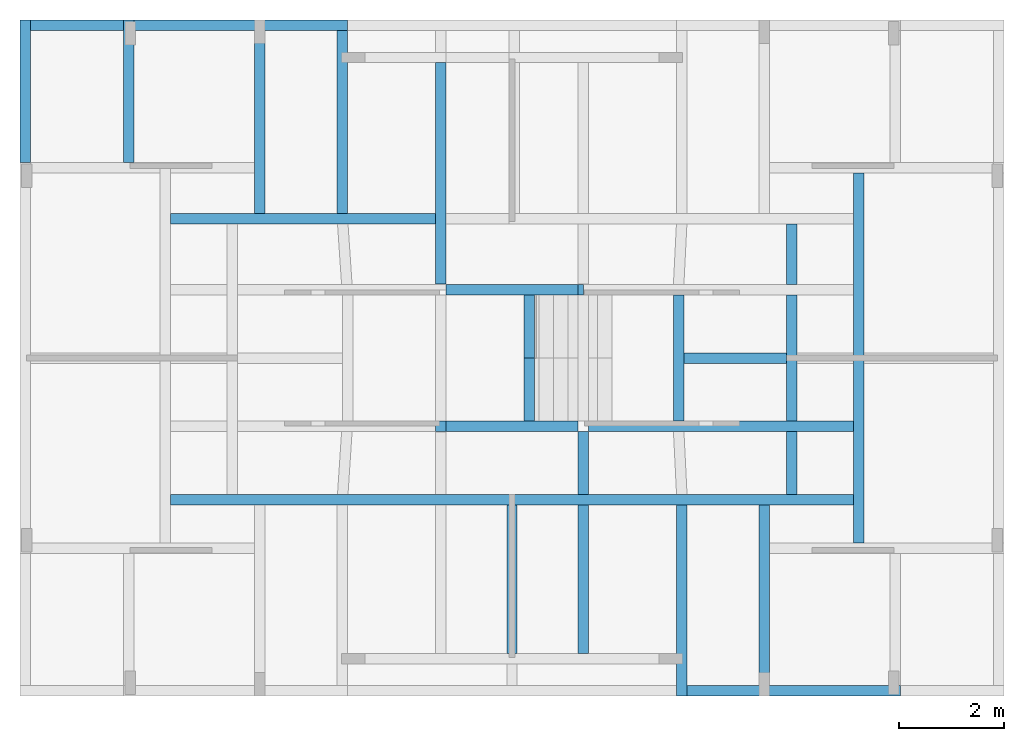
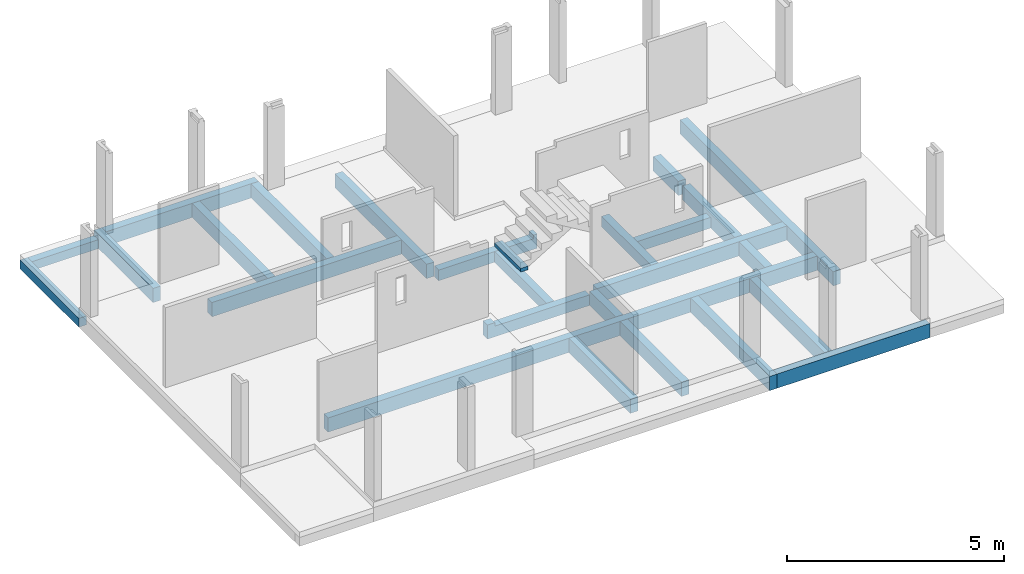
# One storey, part 2 of 7: 23 beams.
"""IFC4 building model written with IfcOpenShell, lengths in metres."""

from ifc_helpers import new_model, entity, si_unit, converted_unit, derived_unit, direction, frame, origin, place, context, subcontext, project, spatial, indexed_curve, outline, extrude, source, transform, mapped, material, type_object, type_shapes, element, save


model = new_model("IFC4")

# Units and contexts
model_context = context("Model", 3, precision=1e-05, world=origin(), true_north=direction((6.123031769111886e-17, 1.0)))
body_context = subcontext(model_context, "Body", "Model", "MODEL_VIEW")
ifc_project = project(units=[si_unit("LENGTHUNIT", "METRE"), si_unit("AREAUNIT", "SQUARE_METRE"), si_unit("VOLUMEUNIT", "CUBIC_METRE"), converted_unit("PLANEANGLEUNIT", "DEGREE", entity("IfcRatioMeasure", 0.017453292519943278), si_unit("PLANEANGLEUNIT", "RADIAN"), dimensions=[0, 0, 0, 0, 0, 0, 0]), si_unit("MASSUNIT", "GRAM", prefix="KILO"), derived_unit("MASSDENSITYUNIT", [(si_unit("MASSUNIT", "GRAM", prefix="KILO"), 1), (si_unit("LENGTHUNIT", "METRE"), -3)]), derived_unit("IONCONCENTRATIONUNIT", [(si_unit("MASSUNIT", "GRAM", prefix="KILO"), 1), (si_unit("LENGTHUNIT", "METRE"), -3)]), derived_unit("MOMENTOFINERTIAUNIT", [(si_unit("LENGTHUNIT", "METRE"), 4)]), si_unit("TIMEUNIT", "SECOND"), si_unit("FREQUENCYUNIT", "HERTZ"), si_unit("THERMODYNAMICTEMPERATUREUNIT", "DEGREE_CELSIUS"), derived_unit("THERMALTRANSMITTANCEUNIT", [(si_unit("MASSUNIT", "GRAM", prefix="KILO"), 1), (si_unit("THERMODYNAMICTEMPERATUREUNIT", "KELVIN"), -1), (si_unit("TIMEUNIT", "SECOND"), -3)]), derived_unit("THERMALCONDUCTANCEUNIT", [(si_unit("MASSUNIT", "GRAM", prefix="KILO"), 1), (si_unit("THERMODYNAMICTEMPERATUREUNIT", "KELVIN"), -1), (si_unit("TIMEUNIT", "SECOND"), -3), (si_unit("LENGTHUNIT", "METRE"), 1)]), derived_unit("VOLUMETRICFLOWRATEUNIT", [(si_unit("LENGTHUNIT", "METRE"), 3), (si_unit("TIMEUNIT", "SECOND"), -1)]), derived_unit("MASSFLOWRATEUNIT", [(si_unit("MASSUNIT", "GRAM", prefix="KILO"), 1), (si_unit("TIMEUNIT", "SECOND"), -1)]), derived_unit("ROTATIONALFREQUENCYUNIT", [(si_unit("TIMEUNIT", "SECOND"), -1)]), si_unit("ELECTRICCURRENTUNIT", "AMPERE"), si_unit("ELECTRICVOLTAGEUNIT", "VOLT"), si_unit("POWERUNIT", "WATT"), si_unit("FORCEUNIT", "NEWTON", prefix="KILO"), si_unit("ILLUMINANCEUNIT", "LUX"), si_unit("LUMINOUSFLUXUNIT", "LUMEN"), si_unit("LUMINOUSINTENSITYUNIT", "CANDELA"), derived_unit("USERDEFINED", [(si_unit("MASSUNIT", "GRAM", prefix="KILO"), -1), (si_unit("LENGTHUNIT", "METRE"), -2), (si_unit("TIMEUNIT", "SECOND"), 3), (si_unit("LUMINOUSFLUXUNIT", "LUMEN"), 1)]), derived_unit("USERDEFINED", [(si_unit("MASSUNIT", "GRAM", prefix="KILO"), 1), (si_unit("TIMEUNIT", "SECOND"), -3), (si_unit("LENGTHUNIT", "METRE"), 3), (si_unit("ELECTRICCURRENTUNIT", "AMPERE"), -2)]), derived_unit("SOUNDPOWERUNIT", [(si_unit("MASSUNIT", "GRAM", prefix="KILO"), 1), (si_unit("TIMEUNIT", "SECOND"), -3), (si_unit("LENGTHUNIT", "METRE"), 2)]), derived_unit("SOUNDPRESSUREUNIT", [(si_unit("MASSUNIT", "GRAM", prefix="KILO"), 1), (si_unit("LENGTHUNIT", "METRE"), -1), (si_unit("TIMEUNIT", "SECOND"), -2)]), derived_unit("LINEARVELOCITYUNIT", [(si_unit("LENGTHUNIT", "METRE"), 1), (si_unit("TIMEUNIT", "SECOND"), -1)]), si_unit("PRESSUREUNIT", "PASCAL"), derived_unit("USERDEFINED", [(si_unit("MASSUNIT", "GRAM", prefix="KILO"), 1), (si_unit("LENGTHUNIT", "METRE"), -2), (si_unit("TIMEUNIT", "SECOND"), -2)]), derived_unit("LINEARFORCEUNIT", [(si_unit("MASSUNIT", "GRAM", prefix="KILO"), 1), (si_unit("TIMEUNIT", "SECOND"), -2)]), derived_unit("PLANARFORCEUNIT", [(si_unit("MASSUNIT", "GRAM", prefix="KILO"), 1), (si_unit("LENGTHUNIT", "METRE"), -1), (si_unit("TIMEUNIT", "SECOND"), -2)]), derived_unit("SPECIFICHEATCAPACITYUNIT", [(si_unit("THERMODYNAMICTEMPERATUREUNIT", "KELVIN"), -1), (si_unit("LENGTHUNIT", "METRE"), 2), (si_unit("TIMEUNIT", "SECOND"), -2)]), derived_unit("HEATINGVALUEUNIT", [(si_unit("LENGTHUNIT", "METRE"), 2), (si_unit("TIMEUNIT", "SECOND"), -2)]), derived_unit("VAPORPERMEABILITYUNIT", [(si_unit("LENGTHUNIT", "METRE"), -1), (si_unit("TIMEUNIT", "SECOND"), 1)]), derived_unit("DYNAMICVISCOSITYUNIT", [(si_unit("MASSUNIT", "GRAM", prefix="KILO"), 1), (si_unit("TIMEUNIT", "SECOND"), -1), (si_unit("LENGTHUNIT", "METRE"), -1)]), derived_unit("THERMALEXPANSIONCOEFFICIENTUNIT", [(si_unit("THERMODYNAMICTEMPERATUREUNIT", "KELVIN"), -1)]), derived_unit("MODULUSOFELASTICITYUNIT", [(si_unit("MASSUNIT", "GRAM", prefix="KILO"), 1), (si_unit("LENGTHUNIT", "METRE"), -1), (si_unit("TIMEUNIT", "SECOND"), -2)]), derived_unit("ISOTHERMALMOISTURECAPACITYUNIT", [(si_unit("LENGTHUNIT", "METRE"), 3), (si_unit("MASSUNIT", "GRAM", prefix="KILO"), -1)]), derived_unit("MOISTUREDIFFUSIVITYUNIT", [(si_unit("TIMEUNIT", "SECOND"), -1), (si_unit("LENGTHUNIT", "METRE"), 2)])], contexts=[model_context])

# Site, building, storey
site_placement = place(None, origin())
site = spatial("IfcSite", under=ifc_project, at=site_placement, Name="Default", CompositionType="ELEMENT")
building_placement = place(site_placement, origin())
building = spatial("IfcBuilding", under=site, at=building_placement, Name="Las nubes", CompositionType="ELEMENT")
storey_placement = place(building_placement, origin())
storey = spatial("IfcBuildingStorey", under=building, at=storey_placement, Name="CIMENTACIÓN", CompositionType="ELEMENT", Elevation=-3.522347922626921e-13)

# Beams
ifc_material_1 = material(Name="Concrete, Cast In Situ", Category="Materials")
beam_type_1 = type_object("IfcBeamType", Name="M_Concrete-Rectangular Beam:(0.20x0.55)", PredefinedType="BEAM", material=ifc_material_1)
shared_shape_1 = source(origin(), body_context, "Body", "SweptSolid", [
    extrude(outline(indexed_curve([(-0.19999999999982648, -0.09999999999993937), (0.19999999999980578, -0.10000000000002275), (0.19999999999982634, 0.0999999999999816), (-0.19999999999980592, 0.10000000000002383), (-0.19999999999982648, -0.09999999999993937)], self_intersect=False)), frame((2.810001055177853, -9.12499999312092, -0.3500000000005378), z_axis=(1.0, 0.0, 0.0), x_axis=(0.0, 0.0, -1.0)), (0.0, 0.0, 1.0), 13.024997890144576),
])
type_shapes(beam_type_1, [shared_shape_1])
beam_1_placement = place(storey_placement, origin())
element("IfcBeam", 1, at=beam_1_placement, inside=storey, type_object=beam_type_1, material=ifc_material_1, Name="M_Concrete-Rectangular Beam:(0.20x0.55)", ObjectType="M_Concrete-Rectangular Beam:(0.20x0.55)", PredefinedType="BEAM", context=body_context, shape_type="MappedRepresentation", body=[
    mapped(shared_shape_1, transform((0.0, 0.0, 0.0), scale=1.0)),
])
beam_type_2 = type_object("IfcBeamType", Name="M_Concrete-Rectangular Beam:(0.20x0.55)", PredefinedType="BEAM", material=ifc_material_1)
shared_shape_2 = source(origin(), body_context, "Body", "SweptSolid", [
    extrude(outline(indexed_curve([(-0.19999999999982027, -0.09999999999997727), (0.199999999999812, -0.10000000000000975), (0.19999999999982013, 0.09999999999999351), (-0.19999999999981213, 0.10000000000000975), (-0.19999999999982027, -0.09999999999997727)], self_intersect=False)), frame((2.8100010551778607, -3.767499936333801, -0.3500000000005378), z_axis=(1.0, 0.0, 0.0), x_axis=(0.0, 0.0, -1.0)), (0.0, 0.0, 1.0), 5.05249894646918),
])
type_shapes(beam_type_2, [shared_shape_2])
beam_2_placement = place(storey_placement, origin())
element("IfcBeam", 2, at=beam_2_placement, inside=storey, type_object=beam_type_2, material=ifc_material_1, Name="M_Concrete-Rectangular Beam:(0.20x0.55)", ObjectType="M_Concrete-Rectangular Beam:(0.20x0.55)", PredefinedType="BEAM", context=body_context, shape_type="MappedRepresentation", body=[
    mapped(shared_shape_2, transform((0.0, 0.0, 0.0), scale=1.0)),
])
beam_type_3 = type_object("IfcBeamType", Name="M_Concrete-Rectangular Beam:(0.20x0.55)", PredefinedType="BEAM", material=ifc_material_1)
shared_shape_3 = source(origin(), body_context, "Body", "SweptSolid", [
    extrude(outline(indexed_curve([(-0.09999999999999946, -0.19999999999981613), (0.10000000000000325, -0.19999999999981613), (0.10000000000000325, 0.19999999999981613), (-0.1, 0.19999999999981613), (-0.09999999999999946, -0.19999999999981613)], self_intersect=False)), frame((4.509999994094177, -0.180000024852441, -0.3500000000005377), z_axis=(0.0, -1.0, 0.0), x_axis=(-1.0, 0.0, 0.0)), (0.0, 0.0, 1.0), 3.4874999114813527),
])
type_shapes(beam_type_3, [shared_shape_3])
beam_3_placement = place(storey_placement, origin())
element("IfcBeam", 3, at=beam_3_placement, inside=storey, type_object=beam_type_3, material=ifc_material_1, Name="M_Concrete-Rectangular Beam:(0.20x0.55)", ObjectType="M_Concrete-Rectangular Beam:(0.20x0.55)", PredefinedType="BEAM", context=body_context, shape_type="MappedRepresentation", body=[
    mapped(shared_shape_3, transform((0.0, 0.0, 0.0), scale=1.0)),
])
beam_type_4 = type_object("IfcBeamType", Name="M_Concrete-Rectangular Beam:(0.20x0.55)", PredefinedType="BEAM", material=ifc_material_1)
shared_shape_4 = source(origin(), body_context, "Body", "SweptSolid", [
    extrude(outline(indexed_curve([(-0.10000000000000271, -0.19999999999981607), (0.10000000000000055, -0.19999999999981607), (0.10000000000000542, 0.19999999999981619), (-0.10000000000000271, 0.19999999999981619), (-0.10000000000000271, -0.19999999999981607)], self_intersect=False)), frame((2.017499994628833, -2.695000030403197, -0.3500000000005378), z_axis=(0.0, 1.0, 0.0), x_axis=(-1.0, 0.0, 0.0)), (0.0, 0.0, 1.0), 2.7150000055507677),
])
type_shapes(beam_type_4, [shared_shape_4])
beam_4_placement = place(storey_placement, origin())
element("IfcBeam", 4, at=beam_4_placement, inside=storey, type_object=beam_type_4, material=ifc_material_1, Name="M_Concrete-Rectangular Beam:(0.20x0.55)", ObjectType="M_Concrete-Rectangular Beam:(0.20x0.55)", PredefinedType="BEAM", context=body_context, shape_type="MappedRepresentation", body=[
    mapped(shared_shape_4, transform((0.0, 0.0, 0.0), scale=1.0)),
])
beam_type_5 = type_object("IfcBeamType", Name="M_Concrete-Rectangular Beam:(0.20x0.55)", PredefinedType="BEAM", material=ifc_material_1)
shared_shape_5 = source(origin(), body_context, "Body", "SweptSolid", [
    extrude(outline(indexed_curve([(-0.1999999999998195, -0.09999999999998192), (0.19999999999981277, -0.10000000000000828), (0.19999999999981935, 0.0999999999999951), (-0.1999999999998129, 0.1000000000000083), (-0.1999999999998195, -0.09999999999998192)], self_intersect=False)), frame((2.1174999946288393, -0.08000002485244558, -0.3500000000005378), z_axis=(1.0, 0.0, 0.0), x_axis=(0.0, 0.0, -1.0)), (0.0, 0.0, 1.0), 4.064999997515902),
])
type_shapes(beam_type_5, [shared_shape_5])
beam_5_placement = place(storey_placement, origin())
element("IfcBeam", 5, at=beam_5_placement, inside=storey, type_object=beam_type_5, material=ifc_material_1, Name="M_Concrete-Rectangular Beam:(0.20x0.55)", ObjectType="M_Concrete-Rectangular Beam:(0.20x0.55)", PredefinedType="BEAM", context=body_context, shape_type="MappedRepresentation", body=[
    mapped(shared_shape_5, transform((0.0, 0.0, 0.0), scale=1.0)),
])
beam_type_6 = type_object("IfcBeamType", Name="M_Concrete-Rectangular Beam:(0.20x0.55)", PredefinedType="BEAM", material=ifc_material_1)
shared_shape_6 = source(origin(), body_context, "Body", "SweptSolid", [
    extrude(outline(indexed_curve([(-0.10000000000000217, -0.19999999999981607), (0.10000000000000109, -0.19999999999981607), (0.10000000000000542, 0.19999999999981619), (-0.10000000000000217, 0.19999999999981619), (-0.10000000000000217, -0.19999999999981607)], self_intersect=False)), frame((9.322500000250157, -12.055000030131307, -0.3500000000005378), z_axis=(0.0, 1.0, 0.0), x_axis=(-1.0, 0.0, 0.0)), (0.0, 0.0, 1.0), 2.8300000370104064),
])
type_shapes(beam_type_6, [shared_shape_6])
beam_6_placement = place(storey_placement, origin())
element("IfcBeam", 6, at=beam_6_placement, inside=storey, type_object=beam_type_6, material=ifc_material_1, Name="M_Concrete-Rectangular Beam:(0.20x0.55)", ObjectType="M_Concrete-Rectangular Beam:(0.20x0.55)", PredefinedType="BEAM", context=body_context, shape_type="MappedRepresentation", body=[
    mapped(shared_shape_6, transform((0.0, 0.0, 0.0), scale=1.0)),
])
beam_type_7 = type_object("IfcBeamType", Name="M_Concrete-Rectangular Beam:(0.20x0.55)", PredefinedType="BEAM", material=ifc_material_1)
shared_shape_7 = source(origin(), body_context, "Body", "SweptSolid", [
    extrude(outline(indexed_curve([(-0.10000000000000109, -0.19999999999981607), (0.10000000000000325, -0.19999999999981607), (0.10000000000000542, 0.19999999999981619), (-0.10000000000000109, 0.19999999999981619), (-0.10000000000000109, -0.19999999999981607)], self_intersect=False)), frame((10.682499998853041, -9.024999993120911, -0.3500000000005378), z_axis=(0.0, 1.0, 0.0), x_axis=(-1.0, 0.0, 0.0)), (0.0, 0.0, 1.0), 1.1999999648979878),
    extrude(outline(indexed_curve([(-0.10000000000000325, -0.19999999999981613), (0.10000000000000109, -0.19999999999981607), (0.10000000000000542, 0.19999999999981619), (-0.10000000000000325, 0.19999999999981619), (-0.10000000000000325, -0.19999999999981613)], self_intersect=False)), frame((10.682499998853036, -12.05500003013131, -0.3500000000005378), z_axis=(0.0, 1.0, 0.0), x_axis=(-1.0, 0.0, 0.0)), (0.0, 0.0, 1.0), 2.830000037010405),
])
type_shapes(beam_type_7, [shared_shape_7])
beam_7_placement = place(storey_placement, origin())
element("IfcBeam", 7, at=beam_7_placement, inside=storey, type_object=beam_type_7, material=ifc_material_1, Name="M_Concrete-Rectangular Beam:(0.20x0.55)", ObjectType="M_Concrete-Rectangular Beam:(0.20x0.55)", PredefinedType="BEAM", context=body_context, shape_type="MappedRepresentation", body=[
    mapped(shared_shape_7, transform((0.0, 0.0, 0.0), scale=1.0)),
])
beam_type_8 = type_object("IfcBeamType", Name="M_Concrete-Rectangular Beam:(0.20x0.45)", PredefinedType="BEAM", material=ifc_material_1)
shared_shape_8 = source(origin(), body_context, "Body", "SweptSolid", [
    extrude(outline(indexed_curve([(-0.10000000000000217, -0.15000000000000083), (0.10000000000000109, -0.15000000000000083), (0.10000000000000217, 0.15000000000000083), (-0.10000000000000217, 0.15000000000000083), (-0.10000000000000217, -0.15000000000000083)], self_intersect=False)), frame((9.652500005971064, -7.625000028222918, -0.4000000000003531), z_axis=(0.0, 1.0, 0.0), x_axis=(-1.0, 0.0, 0.0)), (0.0, 0.0, 1.0), 2.4000000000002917),
])
type_shapes(beam_type_8, [shared_shape_8])
beam_8_placement = place(storey_placement, origin())
element("IfcBeam", 8, at=beam_8_placement, inside=storey, type_object=beam_type_8, material=ifc_material_1, Name="M_Concrete-Rectangular Beam:(0.20x0.45)", ObjectType="M_Concrete-Rectangular Beam:(0.20x0.45)", PredefinedType="BEAM", context=body_context, shape_type="MappedRepresentation", body=[
    mapped(shared_shape_8, transform((0.0, 0.0, 0.0), scale=1.0)),
])
beam_type_9 = type_object("IfcBeamType", Name="M_Concrete-Rectangular Beam:(0.20x0.55)", PredefinedType="BEAM", material=ifc_material_1)
shared_shape_9 = source(origin(), body_context, "Body", "SweptSolid", [
    extrude(outline(indexed_curve([(-0.10000000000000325, -0.19999999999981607), (0.10000000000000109, -0.19999999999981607), (0.10000000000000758, 0.19999999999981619), (-0.10000000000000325, 0.19999999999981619), (-0.10000000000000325, -0.19999999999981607)], self_intersect=False)), frame((12.562500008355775, -12.870000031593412, -0.3500000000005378), z_axis=(0.0, 1.0, 0.0), x_axis=(-1.0, 0.0, 0.0)), (0.0, 0.0, 1.0), 3.645000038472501),
])
type_shapes(beam_type_9, [shared_shape_9])
beam_9_placement = place(storey_placement, origin())
element("IfcBeam", 9, at=beam_9_placement, inside=storey, type_object=beam_type_9, material=ifc_material_1, Name="M_Concrete-Rectangular Beam:(0.20x0.55)", ObjectType="M_Concrete-Rectangular Beam:(0.20x0.55)", PredefinedType="BEAM", context=body_context, shape_type="MappedRepresentation", body=[
    mapped(shared_shape_9, transform((0.0, 0.0, 0.0), scale=1.0)),
])
beam_type_10 = type_object("IfcBeamType", Name="M_Concrete-Rectangular Beam:(0.20x0.55)", PredefinedType="BEAM", material=ifc_material_1)
shared_shape_10 = source(origin(), body_context, "Body", "SweptSolid", [
    extrude(outline(indexed_curve([(-0.10000000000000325, -0.19999999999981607), (0.10000000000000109, -0.19999999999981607), (0.10000000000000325, 0.19999999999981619), (-0.10000000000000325, 0.19999999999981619), (-0.10000000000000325, -0.19999999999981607)], self_intersect=False)), frame((14.657500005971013, -9.024999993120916, -0.3500000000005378), z_axis=(0.0, 1.0, 0.0), x_axis=(-1.0, 0.0, 0.0)), (0.0, 0.0, 1.0), 1.1999999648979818),
    extrude(outline(indexed_curve([(-0.10000000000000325, -0.19999999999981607), (0.10000000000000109, -0.19999999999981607), (0.10000000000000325, 0.19999999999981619), (-0.10000000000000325, 0.19999999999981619), (-0.10000000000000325, -0.19999999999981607)], self_intersect=False)), frame((14.65750000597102, -5.0250000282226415, -0.3500000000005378), z_axis=(0.0, 1.0, 0.0), x_axis=(-1.0, 0.0, 0.0)), (0.0, 0.0, 1.0), 1.1575000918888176),
    extrude(outline(indexed_curve([(-0.10000000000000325, -0.19999999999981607), (0.10000000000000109, -0.19999999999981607), (0.10000000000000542, 0.19999999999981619), (-0.10000000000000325, 0.19999999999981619), (-0.10000000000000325, -0.19999999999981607)], self_intersect=False)), frame((14.657500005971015, -7.625000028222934, -0.3500000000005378), z_axis=(0.0, 1.0, 0.0), x_axis=(-1.0, 0.0, 0.0)), (0.0, 0.0, 1.0), 2.4000000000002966),
])
type_shapes(beam_type_10, [shared_shape_10])
beam_10_placement = place(storey_placement, origin())
element("IfcBeam", 10, at=beam_10_placement, inside=storey, type_object=beam_type_10, material=ifc_material_1, Name="M_Concrete-Rectangular Beam:(0.20x0.55)", ObjectType="M_Concrete-Rectangular Beam:(0.20x0.55)", PredefinedType="BEAM", context=body_context, shape_type="MappedRepresentation", body=[
    mapped(shared_shape_10, transform((0.0, 0.0, 0.0), scale=1.0)),
])
beam_type_11 = type_object("IfcBeamType", Name="M_Concrete-Rectangular Beam:(0.20x0.55)", PredefinedType="BEAM", material=ifc_material_1)
shared_shape_11 = source(origin(), body_context, "Body", "SweptSolid", [
    extrude(outline(indexed_curve([(-0.19999999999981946, -0.0999999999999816), (0.19999999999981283, -0.10000000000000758), (0.19999999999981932, 0.09999999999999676), (-0.19999999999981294, 0.10000000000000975), (-0.19999999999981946, -0.0999999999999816)], self_intersect=False)), frame((12.662500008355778, -12.770000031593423, -0.3500000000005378), z_axis=(1.0, 0.0, 0.0), x_axis=(0.0, 0.0, -1.0)), (0.0, 0.0, 1.0), 4.064999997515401),
])
type_shapes(beam_type_11, [shared_shape_11])
beam_11_placement = place(storey_placement, origin())
element("IfcBeam", 11, at=beam_11_placement, inside=storey, type_object=beam_type_11, material=ifc_material_1, Name="M_Concrete-Rectangular Beam:(0.20x0.55)", ObjectType="M_Concrete-Rectangular Beam:(0.20x0.55)", PredefinedType="BEAM", context=body_context, shape_type="MappedRepresentation", body=[
    mapped(shared_shape_11, transform((0.0, 0.0, 0.0), scale=1.0)),
])
beam_type_12 = type_object("IfcBeamType", Name="M_Concrete-Rectangular Beam:(0.20x0.55)", PredefinedType="BEAM", material=ifc_material_1)
shared_shape_12 = source(origin(), body_context, "Body", "SweptSolid", [
    extrude(outline(indexed_curve([(-0.10000000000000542, -0.19999999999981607), (0.09999999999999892, -0.19999999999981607), (0.10000000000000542, 0.19999999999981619), (-0.10000000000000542, 0.19999999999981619), (-0.10000000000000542, -0.19999999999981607)], self_intersect=False)), frame((14.13500000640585, -12.670000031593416, -0.3500000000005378), z_axis=(0.0, 1.0, 0.0), x_axis=(-1.0, 0.0, 0.0)), (0.0, 0.0, 1.0), 3.4450000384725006),
])
type_shapes(beam_type_12, [shared_shape_12])
beam_12_placement = place(storey_placement, origin())
element("IfcBeam", 12, at=beam_12_placement, inside=storey, type_object=beam_type_12, material=ifc_material_1, Name="M_Concrete-Rectangular Beam:(0.20x0.55)", ObjectType="M_Concrete-Rectangular Beam:(0.20x0.55)", PredefinedType="BEAM", context=body_context, shape_type="MappedRepresentation", body=[
    mapped(shared_shape_12, transform((0.0, 0.0, 0.0), scale=1.0)),
])
ifc_material_2 = material(Name="Concrete - Cast-in-Place Concrete - 28 MPa SLAB", Category="Materials")
beam_type_13 = type_object("IfcBeamType", Name="M_Concrete-Rectangular Beam:(0.20x0.55)", PredefinedType="BEAM", material=ifc_material_2)
shared_shape_13 = source(origin(), body_context, "Body", "SweptSolid", [
    extrude(outline(indexed_curve([(-0.10000000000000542, -0.19999999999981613), (0.09999999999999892, -0.19999999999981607), (0.10000000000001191, 0.19999999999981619), (-0.10000000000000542, 0.19999999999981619), (-0.10000000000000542, -0.19999999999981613)], self_intersect=False)), frame((15.934998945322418, -9.955000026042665, -0.3500000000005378), z_axis=(0.0, 1.0, 0.0), x_axis=(-1.0, 0.0, 0.0)), (0.0, 0.0, 1.0), 7.059999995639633),
])
type_shapes(beam_type_13, [shared_shape_13])
beam_13_placement = place(storey_placement, origin())
element("IfcBeam", 13, at=beam_13_placement, inside=storey, type_object=beam_type_13, material=ifc_material_2, Name="M_Concrete-Rectangular Beam:(0.20x0.55)", ObjectType="M_Concrete-Rectangular Beam:(0.20x0.55)", PredefinedType="BEAM", context=body_context, shape_type="MappedRepresentation", body=[
    mapped(shared_shape_13, transform((0.0, 0.0, 0.0), scale=1.0)),
])
beam_type_14 = type_object("IfcBeamType", Name="M_Concrete-Rectangular Beam:(0.20x0.40)", PredefinedType="BEAM", material=ifc_material_1)
shared_shape_14 = source(origin(), body_context, "Body", "SweptSolid", [
    extrude(outline(indexed_curve([(-0.10000000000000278, -0.12500000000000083), (0.10000000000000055, -0.12500000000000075), (0.10000000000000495, 0.12500000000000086), (-0.10000000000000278, 0.12500000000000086), (-0.10000000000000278, -0.12500000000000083)], self_intersect=False)), frame((0.042500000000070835, -2.695000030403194, -0.42500000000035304), z_axis=(0.0, 1.0, 0.0), x_axis=(-1.0, 0.0, 0.0)), (0.0, 0.0, 1.0), 2.7150000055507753),
])
type_shapes(beam_type_14, [shared_shape_14])
beam_14_placement = place(storey_placement, origin())
element("IfcBeam", 14, at=beam_14_placement, inside=storey, type_object=beam_type_14, material=ifc_material_1, Name="M_Concrete-Rectangular Beam:(0.20x0.40)", ObjectType="M_Concrete-Rectangular Beam:(0.20x0.40)", PredefinedType="BEAM", context=body_context, shape_type="MappedRepresentation", body=[
    mapped(shared_shape_14, transform((0.0, 0.0, 0.0), scale=1.0)),
])
beam_type_15 = type_object("IfcBeamType", Name="M_Concrete-Rectangular Beam:(0.20x0.40)", PredefinedType="BEAM", material=ifc_material_1)
shared_shape_15 = source(origin(), body_context, "Body", "SweptSolid", [
    extrude(outline(indexed_curve([(-0.12500000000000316, -0.10000000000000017), (0.12499999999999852, -0.10000000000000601), (0.12500000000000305, 0.09999999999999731), (-0.12499999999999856, 0.10000000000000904), (-0.12500000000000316, -0.10000000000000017)], self_intersect=False)), frame((1.9174999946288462, -0.0800000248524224, -0.42500000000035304), z_axis=(-1.0, 0.0, 0.0), x_axis=(0.0, 0.0, -1.0)), (0.0, 0.0, 1.0), 1.7749999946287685),
])
type_shapes(beam_type_15, [shared_shape_15])
beam_15_placement = place(storey_placement, origin())
element("IfcBeam", 15, at=beam_15_placement, inside=storey, type_object=beam_type_15, material=ifc_material_1, Name="M_Concrete-Rectangular Beam:(0.20x0.40)", ObjectType="M_Concrete-Rectangular Beam:(0.20x0.40)", PredefinedType="BEAM", context=body_context, shape_type="MappedRepresentation", body=[
    mapped(shared_shape_15, transform((0.0, 0.0, 0.0), scale=1.0)),
])
beam_type_16 = type_object("IfcBeamType", Name="M_Concrete-Rectangular Beam:(0.20x0.55)", PredefinedType="BEAM", material=ifc_material_1)
shared_shape_16 = source(origin(), body_context, "Body", "SweptSolid", [
    extrude(outline(indexed_curve([(-0.1000000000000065, -0.19999999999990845), (0.09999999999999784, -0.19999999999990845), (0.10000000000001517, 0.19999999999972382), (-0.10000000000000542, 0.20000000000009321), (-0.1000000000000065, -0.19999999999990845)], self_intersect=False)), frame((6.082499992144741, -3.667499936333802, -0.3500000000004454), z_axis=(0.0, 1.0, 0.0), x_axis=(-1.0, 0.0, 0.0)), (0.0, 0.0, 1.0), 3.4874999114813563),
])
type_shapes(beam_type_16, [shared_shape_16])
beam_16_placement = place(storey_placement, origin())
element("IfcBeam", 16, at=beam_16_placement, inside=storey, type_object=beam_type_16, material=ifc_material_1, Name="M_Concrete-Rectangular Beam:(0.20x0.55)", ObjectType="M_Concrete-Rectangular Beam:(0.20x0.55)", PredefinedType="BEAM", context=body_context, shape_type="MappedRepresentation", body=[
    mapped(shared_shape_16, transform((0.0, 0.0, 0.0), scale=1.0)),
])
beam_type_17 = type_object("IfcBeamType", Name="M_Concrete-Rectangular Beam:(0.20x0.45)", PredefinedType="BEAM", material=ifc_material_1)
shared_shape_17 = source(origin(), body_context, "Body", "SweptSolid", [
    extrude(outline(indexed_curve([(-0.150000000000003, -0.09999999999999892), (0.14999999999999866, -0.10000000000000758), (0.150000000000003, 0.09999999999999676), (-0.14999999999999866, 0.10000000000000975), (-0.150000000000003, -0.09999999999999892)], self_intersect=False)), frame((14.55750000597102, -6.4250000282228, -0.4000000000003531), z_axis=(-1.0, 0.0, 0.0), x_axis=(0.0, 0.0, -1.0)), (0.0, 0.0, 1.0), 1.9574999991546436),
])
type_shapes(beam_type_17, [shared_shape_17])
beam_17_placement = place(storey_placement, origin())
element("IfcBeam", 17, at=beam_17_placement, inside=storey, type_object=beam_type_17, material=ifc_material_1, Name="M_Concrete-Rectangular Beam:(0.20x0.45)", ObjectType="M_Concrete-Rectangular Beam:(0.20x0.45)", PredefinedType="BEAM", context=body_context, shape_type="MappedRepresentation", body=[
    mapped(shared_shape_17, transform((0.0, 0.0, 0.0), scale=1.0)),
])
beam_type_18 = type_object("IfcBeamType", Name="M_Concrete-Rectangular Beam:(0.20x0.45)", PredefinedType="BEAM", material=ifc_material_1)
shared_shape_18 = source(origin(), body_context, "Body", "SweptSolid", [
    extrude(outline(indexed_curve([(0.1083333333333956, 0.7049999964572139), (0.20833333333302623, 0.7049999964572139), (0.20833333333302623, 0.8049999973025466), (0.1083333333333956, 0.8049999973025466), (-0.19166666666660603, 0.8049999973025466), (-0.19166666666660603, 0.7049999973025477), (-0.19166666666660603, -0.1249999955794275), (-0.19166666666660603, -0.32499999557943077), (-0.19166666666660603, -1.8149999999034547), (0.1083333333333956, -1.8149999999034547), (0.1083333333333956, -0.32499999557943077), (0.1083333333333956, -0.1249999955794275), (0.1083333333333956, 0.7049999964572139)], self_intersect=False)), frame((9.877500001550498, -5.225000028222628, -0.35833333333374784), z_axis=(0.0, 1.0, 0.0), x_axis=(0.0, 0.0, 1.0)), (0.0, 0.0, 1.0), 0.20000000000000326),
])
type_shapes(beam_type_18, [shared_shape_18])
beam_18_placement = place(storey_placement, origin())
element("IfcBeam", 18, at=beam_18_placement, inside=storey, type_object=beam_type_18, material=ifc_material_1, Name="M_Concrete-Rectangular Beam:(0.20x0.45)", ObjectType="M_Concrete-Rectangular Beam:(0.20x0.45)", PredefinedType="BEAM", context=body_context, shape_type="MappedRepresentation", body=[
    mapped(shared_shape_18, transform((0.0, 0.0, 0.0), scale=1.0)),
])
beam_type_19 = type_object("IfcBeamType", Name="M_Concrete-Rectangular Beam:(0.20x0.45)", PredefinedType="BEAM", material=ifc_material_1)
shared_shape_19 = source(origin(), body_context, "Body", "SweptSolid", [
    extrude(outline(indexed_curve([(-0.06666666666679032, -1.7466666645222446), (0.23333333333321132, -1.7466666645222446), (0.23333333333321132, 0.97333333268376), (-0.16666666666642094, 0.97333333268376), (-0.16666666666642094, 0.7733333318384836), (-0.06666666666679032, 0.7733333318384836), (-0.06666666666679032, -1.7466666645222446)], self_intersect=False)), frame((8.835833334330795, -7.825000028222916, -0.31666666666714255), z_axis=(0.0, 1.0, 0.0), x_axis=(0.0, 0.0, -1.0)), (0.0, 0.0, 1.0), 0.20000000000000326),
])
type_shapes(beam_type_19, [shared_shape_19])
beam_19_placement = place(storey_placement, origin())
element("IfcBeam", 19, at=beam_19_placement, inside=storey, type_object=beam_type_19, material=ifc_material_1, Name="M_Concrete-Rectangular Beam:(0.20x0.45)", ObjectType="M_Concrete-Rectangular Beam:(0.20x0.45)", PredefinedType="BEAM", context=body_context, shape_type="MappedRepresentation", body=[
    mapped(shared_shape_19, transform((0.0, 0.0, 0.0), scale=1.0)),
])
beam_type_20 = type_object("IfcBeamType", Name="M_Concrete-Rectangular Beam:(0.20x0.10)", PredefinedType="BEAM", material=ifc_material_1)
shared_shape_20 = source(origin(), body_context, "Body", "SweptSolid", [
    extrude(outline(indexed_curve([(-0.10000000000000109, -0.04999999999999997), (0.10000000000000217, -0.05), (0.10000000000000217, 0.04999999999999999), (-0.10000000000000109, 0.05), (-0.10000000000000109, -0.04999999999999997)], self_intersect=False)), frame((9.652500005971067, -6.425000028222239, -0.050000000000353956), z_axis=(0.0, 1.0, 0.0), x_axis=(-1.0, 0.0, 0.0)), (0.0, 0.0, 1.0), 1.1996488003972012),
])
type_shapes(beam_type_20, [shared_shape_20])
beam_20_placement = place(storey_placement, origin())
element("IfcBeam", 20, at=beam_20_placement, inside=storey, type_object=beam_type_20, material=ifc_material_1, Name="M_Concrete-Rectangular Beam:(0.20x0.10)", ObjectType="M_Concrete-Rectangular Beam:(0.20x0.10)", PredefinedType="BEAM", context=body_context, shape_type="MappedRepresentation", body=[
    mapped(shared_shape_20, transform((0.0, 0.0, 0.0), scale=1.0)),
])
beam_type_21 = type_object("IfcBeamType", Name="M_Concrete-Rectangular Beam:(0.20x0.45)", PredefinedType="BEAM", material=ifc_material_1)
shared_shape_21 = source(origin(), body_context, "Body", "SweptSolid", [
    extrude(outline(indexed_curve([(-0.10000000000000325, -0.15000000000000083), (0.10000000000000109, -0.15000000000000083), (0.10000000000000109, 0.15000000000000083), (-0.10000000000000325, 0.15000000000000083), (-0.10000000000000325, -0.15000000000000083)], self_intersect=False)), frame((12.500000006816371, -7.625000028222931, -0.4000000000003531), z_axis=(0.0, 1.0, 0.0), x_axis=(-1.0, 0.0, 0.0)), (0.0, 0.0, 1.0), 2.4000000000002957),
])
type_shapes(beam_type_21, [shared_shape_21])
beam_21_placement = place(storey_placement, origin())
element("IfcBeam", 21, at=beam_21_placement, inside=storey, type_object=beam_type_21, material=ifc_material_1, Name="M_Concrete-Rectangular Beam:(0.20x0.45)", ObjectType="M_Concrete-Rectangular Beam:(0.20x0.45)", PredefinedType="BEAM", context=body_context, shape_type="MappedRepresentation", body=[
    mapped(shared_shape_21, transform((0.0, 0.0, 0.0), scale=1.0)),
])
beam_type_22 = type_object("IfcBeamType", Name="M_Concrete-Rectangular Beam:(0.20x0.55)", PredefinedType="BEAM", material=ifc_material_1)
shared_shape_22 = source(origin(), body_context, "Body", "SweptSolid", [
    extrude(outline(indexed_curve([(-0.19999999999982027, -0.09999999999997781), (0.199999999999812, -0.10000000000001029), (0.19999999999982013, 0.09999999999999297), (-0.19999999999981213, 0.1000000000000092), (-0.19999999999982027, -0.09999999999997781)], self_intersect=False)), frame((10.782499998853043, -7.725000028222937, -0.3500000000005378), z_axis=(1.0, 0.0, 0.0), x_axis=(0.0, 0.0, -1.0)), (0.0, 0.0, 1.0), 5.052498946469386),
])
type_shapes(beam_type_22, [shared_shape_22])
beam_22_placement = place(storey_placement, origin())
element("IfcBeam", 22, at=beam_22_placement, inside=storey, type_object=beam_type_22, material=ifc_material_1, Name="M_Concrete-Rectangular Beam:(0.20x0.55)", ObjectType="M_Concrete-Rectangular Beam:(0.20x0.55)", PredefinedType="BEAM", context=body_context, shape_type="MappedRepresentation", body=[
    mapped(shared_shape_22, transform((0.0, 0.0, 0.0), scale=1.0)),
])
beam_type_23 = type_object("IfcBeamType", Name="M_Concrete-Rectangular Beam:(0.20x0.55)", PredefinedType="BEAM", material=ifc_material_1)
shared_shape_23 = source(origin(), body_context, "Body", "SweptSolid", [
    extrude(outline(indexed_curve([(-0.10000000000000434, -0.19999999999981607), (0.1, -0.19999999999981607), (0.10000000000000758, 0.19999999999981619), (-0.10000000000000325, 0.19999999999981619), (-0.10000000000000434, -0.19999999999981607)], self_intersect=False)), frame((7.962500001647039, -5.012300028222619, -0.3500000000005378), z_axis=(0.0, 1.0, 0.0), x_axis=(-1.0, 0.0, 0.0)), (0.0, 0.0, 1.0), 4.217300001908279),
])
type_shapes(beam_type_23, [shared_shape_23])
beam_23_placement = place(storey_placement, origin())
element("IfcBeam", 23, at=beam_23_placement, inside=storey, type_object=beam_type_23, material=ifc_material_1, Name="M_Concrete-Rectangular Beam:(0.20x0.55)", ObjectType="M_Concrete-Rectangular Beam:(0.20x0.55)", PredefinedType="BEAM", context=body_context, shape_type="MappedRepresentation", body=[
    mapped(shared_shape_23, transform((0.0, 0.0, 0.0), scale=1.0)),
])

save(model, "model.ifc")
